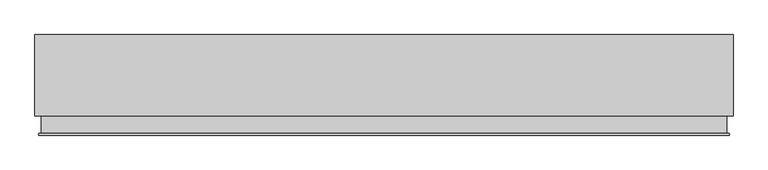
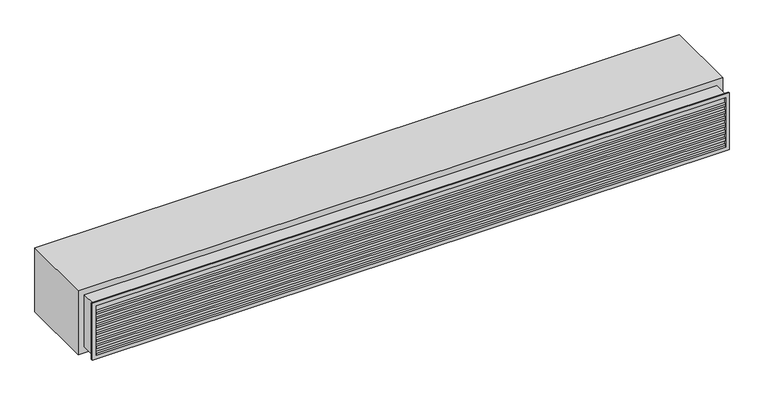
"""IFC4 building model written with IfcOpenShell, lengths in millimetres: air terminal geometry, 020_排気ガラリ : 排気ガラリ."""

import ifcopenshell
import ifcopenshell.guid

model = None  # the IFC model being written
_history = None  # IfcOwnerHistory: only IFC2X3 demands one
_inside = {}  # id of a spatial element -> (the spatial element, [elements in it])
_under = {}  # id of a project, library or spatial element -> (it, [spatial elements below it])
_declared = {}  # id of a project -> (the project, [libraries it declares])
_typed = {}  # id of a type object -> (the type object, [elements of that type])
_made_of = {}  # id of a material, layer set ... -> (it, [elements and type objects made of it])


def new_model(schema):
    """Start an empty IFC model of exactly this schema.

    Asked for "IFC4X3", IfcOpenShell would pick the latest addendum, in which some entities
    have other attributes; the version numbers below select the first issue.
    IFC2X3 requires an IfcOwnerHistory on every rooted entity: one is made here for all.
    """
    global model, _history
    if schema == "IFC4X3":
        model = ifcopenshell.file(schema_version=(4, 3, 0, 0))
    else:
        model = ifcopenshell.file(schema=schema)
    _inside.clear()
    _under.clear()
    _declared.clear()
    _typed.clear()
    _made_of.clear()
    _history = None
    if model.schema == "IFC2X3":
        org = make("IfcOrganization", Name="unknown")
        user = make(
            "IfcPersonAndOrganization",
            ThePerson=make("IfcPerson", FamilyName="unknown"),
            TheOrganization=org,
        )
        app = make(
            "IfcApplication",
            ApplicationDeveloper=org,
            Version="unknown",
            ApplicationFullName="unknown",
            ApplicationIdentifier="unknown",
        )
        _history = make(
            "IfcOwnerHistory",
            OwningUser=user,
            OwningApplication=app,
            ChangeAction="ADDED",
            CreationDate=0,
        )
    return model


def make(cls, **values):
    """One entity of the class cls with the attributes given. An attribute that is None is left unset."""
    return model.create_entity(
        cls, **{name: value for name, value in values.items() if value is not None}
    )


def rooted(cls, **values):
    """An entity with a GlobalId (a new one), such as an element, a storey or a relation."""
    return make(cls, GlobalId=ifcopenshell.guid.new(), OwnerHistory=_history, **values)


def si_unit(unit_type, name, prefix=None):
    """IfcSIUnit, for example si_unit("LENGTHUNIT", "METRE", prefix="MILLI")."""
    return make("IfcSIUnit", UnitType=unit_type, Prefix=prefix, Name=name)


def assignment(units):
    """IfcUnitAssignment: the units of a project."""
    return None if units is None else make("IfcUnitAssignment", Units=units)


def point(xyz):
    """IfcCartesianPoint."""
    return None if xyz is None else make("IfcCartesianPoint", Coordinates=xyz)


def direction(xyz):
    """IfcDirection."""
    return None if xyz is None else make("IfcDirection", DirectionRatios=xyz)


def frame(location, z_axis=None, x_axis=None):
    """IfcAxis2Placement3D, a coordinate frame: its origin and axes. An axis left out is left unset."""
    return make(
        "IfcAxis2Placement3D",
        Location=point(location),
        Axis=direction(z_axis),
        RefDirection=direction(x_axis),
    )


def origin():
    """The frame at (0, 0, 0) with its axes left unset."""
    return frame((0.0, 0.0, 0.0))


def place(relative_to, where):
    """IfcLocalPlacement: puts the frame where relative to a parent placement (None: the world)."""
    return make(
        "IfcLocalPlacement", PlacementRelTo=relative_to, RelativePlacement=where
    )


def context(
    kind, dimensions, precision=None, world=None, true_north=None, identifier=None
):
    """IfcGeometricRepresentationContext, for example the 3D "Model" context."""
    return make(
        "IfcGeometricRepresentationContext",
        ContextIdentifier=identifier,
        ContextType=kind,
        CoordinateSpaceDimension=dimensions,
        Precision=precision,
        WorldCoordinateSystem=world,
        TrueNorth=true_north,
    )


def project(units=None, contexts=None):
    """IfcProject with its units and contexts."""
    return rooted(
        "IfcProject",
        Name="project",
        RepresentationContexts=contexts,
        UnitsInContext=assignment(units),
    )


def spatial(cls, under=None, at=None, **own):
    """A site, building, storey or space (cls), placed at a placement, below another one or the project."""
    s = rooted(cls, ObjectPlacement=at, **own)
    if under is not None:
        _under.setdefault(under.id(), (under, []))[1].append(s)
    return s


def polyline(points):
    """IfcPolyline through the points."""
    return make("IfcPolyline", Points=[point(p) for p in points])


def outline(outer, holes=None, kind="AREA"):
    """IfcArbitraryClosedProfileDef: a profile drawn as a closed curve; with holes, ...WithVoids."""
    if holes is None:
        return make("IfcArbitraryClosedProfileDef", ProfileType=kind, OuterCurve=outer)
    return make(
        "IfcArbitraryProfileDefWithVoids",
        ProfileType=kind,
        OuterCurve=outer,
        InnerCurves=holes,
    )


def extrude(swept, where, along, depth):
    """IfcExtrudedAreaSolid: the profile swept, set in the frame where, extruded along a direction by depth."""
    return make(
        "IfcExtrudedAreaSolid",
        SweptArea=swept,
        Position=where,
        ExtrudedDirection=direction(along),
        Depth=depth,
    )


def faces_of(points, faces, orient=None, outer=None):
    """IfcFace entities. A face is a list of loops; a loop is a list of indices into points, from 0.

    orient and outer hold one flag for each loop. By default every Orientation is true, the
    first loop of a face is its IfcFaceOuterBound and the others are IfcFaceBound.
    """
    made = []
    for i, loops in enumerate(faces):
        bounds = []
        for j, loop in enumerate(loops):
            is_outer = j == 0 if outer is None else outer[i][j]
            bounds.append(
                make(
                    "IfcFaceOuterBound" if is_outer else "IfcFaceBound",
                    Bound=make("IfcPolyLoop", Polygon=[points[k] for k in loop]),
                    Orientation=True if orient is None else orient[i][j],
                )
            )
        made.append(make("IfcFace", Bounds=bounds))
    return made


def faceted_brep(points, faces, orient=None, outer=None, voids=None):
    """IfcFacetedBrep: a solid bounded by flat faces; with voids (closed shells), ...WithVoids."""
    shared = [point(p) for p in points]
    hull = make("IfcClosedShell", CfsFaces=faces_of(shared, faces, orient, outer))
    if voids is None:
        return make("IfcFacetedBrep", Outer=hull)
    return make(
        "IfcFacetedBrepWithVoids",
        Outer=hull,
        Voids=[
            make(cls, CfsFaces=faces_of(shared, fs, o, b)) for cls, fs, o, b in voids
        ],
    )


def shape(context_of_items, identifier, shape_type, items):
    """IfcShapeRepresentation: the items that make up one representation, for example the "Body"."""
    return make(
        "IfcShapeRepresentation",
        ContextOfItems=context_of_items,
        RepresentationIdentifier=identifier,
        RepresentationType=shape_type,
        Items=items,
    )


def source(mapping_origin, context_of_items, identifier, shape_type, items):
    """IfcRepresentationMap: a shape defined once, which mapped items show again and again."""
    return make(
        "IfcRepresentationMap",
        MappingOrigin=mapping_origin,
        MappedRepresentation=shape(context_of_items, identifier, shape_type, items),
    )


def transform(
    local_origin,
    x_axis=None,
    y_axis=None,
    z_axis=None,
    scale=None,
    scale2=None,
    scale3=None,
    uniform=True,
):
    """IfcCartesianTransformationOperator3D, or its non-uniform kind. x_axis, y_axis, z_axis: its Axis1, 2, 3."""
    if uniform:
        return make(
            "IfcCartesianTransformationOperator3D",
            Axis1=direction(x_axis),
            Axis2=direction(y_axis),
            LocalOrigin=point(local_origin),
            Scale=scale,
            Axis3=direction(z_axis),
        )
    return make(
        "IfcCartesianTransformationOperator3DnonUniform",
        Axis1=direction(x_axis),
        Axis2=direction(y_axis),
        LocalOrigin=point(local_origin),
        Scale=scale,
        Axis3=direction(z_axis),
        Scale2=scale2,
        Scale3=scale3,
    )


def mapped(mapping_source, mapping_target):
    """IfcMappedItem: shows the shape of a source again, moved by a transform."""
    return make(
        "IfcMappedItem", MappingSource=mapping_source, MappingTarget=mapping_target
    )


def made_of(thing, what):
    """Note that an element or type object is made of a material, layer set ...; save() writes the relation."""
    if what is not None:
        _made_of.setdefault(what.id(), (what, []))[1].append(thing)
    return thing


def element(
    cls,
    number,
    at=None,
    inside=None,
    cuts=None,
    type_object=None,
    material=None,
    context=None,
    identifier="Body",
    shape_type=None,
    held_by="IfcProductDefinitionShape",
    body=None,
    shapes=None,
    **own,
):
    """One element of the class cls, such as IfcWall. Its Tag is "e" and its number.

    at: its placement. inside: the storey or other place that contains it. cuts: it is an
    opening in that element (IfcRelVoidsElement). A single representation is given by context,
    identifier, shape_type and body (its items); several are given by shapes. held_by: the class
    of the entity that holds the representations. save() writes the other relations.
    """
    e = rooted(cls, Tag="e%d" % number, ObjectPlacement=at, **own)
    if body is not None:
        shapes = [shape(context, identifier, shape_type, body)]
    if shapes is not None:
        e.Representation = make(held_by, Representations=shapes)
    if inside is not None:
        _inside.setdefault(inside.id(), (inside, []))[1].append(e)
    if cuts is not None:
        rooted(
            "IfcRelVoidsElement", RelatingBuildingElement=cuts, RelatedOpeningElement=e
        )
    if type_object is not None:
        _typed.setdefault(type_object.id(), (type_object, []))[1].append(e)
    return made_of(e, material)


def aggregate(whole, parts):
    """IfcRelAggregates: a whole, such as a stair, and the parts it consists of."""
    return rooted("IfcRelAggregates", RelatingObject=whole, RelatedObjects=parts)


def save(model, path):
    """Write the relations noted so far, then the file.

    IfcRelAggregates (storeys below a building ...), IfcRelContainedInSpatialStructure (elements
    in a storey), IfcRelDefinesByType, IfcRelAssociatesMaterial and IfcRelDeclares: one each for
    every whole, place, type object, material and project.
    """
    for whole, parts in _under.values():
        aggregate(whole, parts)
    for where, things in _inside.values():
        rooted(
            "IfcRelContainedInSpatialStructure",
            RelatedElements=things,
            RelatingStructure=where,
        )
    for kind, things in _typed.values():
        rooted("IfcRelDefinesByType", RelatedObjects=things, RelatingType=kind)
    for what, things in _made_of.values():
        rooted("IfcRelAssociatesMaterial", RelatedObjects=things, RelatingMaterial=what)
    for by, libraries in _declared.values():
        rooted("IfcRelDeclares", RelatingContext=by, RelatedDefinitions=libraries)
    model.write(path)


def air_terminal_ce9c14cd(model_context):
    return source(origin(), model_context, "Body", "SolidModel", [
        extrude(outline(polyline([(48.0, 126.6666667), (50.0, 126.6666667), (50.0, 110.4494491), (-8.0, 80.4494491), (-8.0, 66.6666667), (-10.0, 66.6666667), (-10.0, 81.6666667), (48.0, 111.6666667), (48.0, 126.6666667)])), frame((-2100.0, 0.0, 0.0), z_axis=(1.0, 0.0, 0.0), x_axis=(0.0, 1.0, 0.0)), (0.0, 0.0, 1.0), 4200.0),
        extrude(outline(polyline([(48.0, 78.3333333), (50.0, 78.3333333), (50.0, 62.1161157), (-8.0, 32.1161157), (-8.0, 18.3333333), (-10.0, 18.3333333), (-10.0, 33.3333333), (48.0, 63.3333333), (48.0, 78.3333333)])), frame((-2100.0, 0.0, 0.0), z_axis=(1.0, 0.0, 0.0), x_axis=(0.0, 1.0, 0.0)), (0.0, 0.0, 1.0), 4200.0),
        extrude(outline(polyline([(48.0, 30.0), (50.0, 30.0), (50.0, 13.7827824), (-8.0, -16.2172176), (-8.0, -30.0), (-10.0, -30.0), (-10.0, -15.0), (48.0, 15.0), (48.0, 30.0)])), frame((-2100.0, 0.0, 0.0), z_axis=(1.0, 0.0, 0.0), x_axis=(0.0, 1.0, 0.0)), (0.0, 0.0, 1.0), 4200.0),
        extrude(outline(polyline([(48.0, -18.3333333), (50.0, -18.3333333), (50.0, -34.5505509), (-8.0, -64.5505509), (-8.0, -78.3333333), (-10.0, -78.3333333), (-10.0, -63.3333333), (48.0, -33.3333333), (48.0, -18.3333333)])), frame((-2100.0, 0.0, 0.0), z_axis=(1.0, 0.0, 0.0), x_axis=(0.0, 1.0, 0.0)), (0.0, 0.0, 1.0), 4200.0),
        extrude(outline(polyline([(48.0, -66.6666667), (50.0, -66.6666667), (50.0, -82.8838843), (-8.0, -112.8838843), (-8.0, -126.6666667), (-10.0, -126.6666667), (-10.0, -111.6666667), (48.0, -81.6666667), (48.0, -66.6666667)])), frame((-2100.0, 0.0, 0.0), z_axis=(1.0, 0.0, 0.0), x_axis=(0.0, 1.0, 0.0)), (0.0, 0.0, 1.0), 4200.0),
        extrude(outline(polyline([(48.0, 175.0), (50.0, 175.0), (50.0, 158.7827824), (-8.0, 128.7827824), (-8.0, 115.0), (-10.0, 115.0), (-10.0, 130.0), (48.0, 160.0), (48.0, 175.0)])), frame((-2100.0, 0.0, 0.0), z_axis=(1.0, 0.0, 0.0), x_axis=(0.0, 1.0, 0.0)), (0.0, 0.0, 1.0), 4200.0),
        extrude(outline(polyline([(48.0, -115.0), (50.0, -115.0), (50.0, -131.2172176), (-8.0, -161.2172176), (-8.0, -175.0), (-10.0, -175.0), (-10.0, -160.0), (48.0, -130.0), (48.0, -115.0)])), frame((-2100.0, 0.0, 0.0), z_axis=(1.0, 0.0, 0.0), x_axis=(0.0, 1.0, 0.0)), (0.0, 0.0, 1.0), 4200.0),
        faceted_brep([(2100.0, -10.0, 175.0), (2100.0, 110.0, 175.0), (2100.0, 110.0, -175.0), (2100.0, -10.0, -175.0), (2125.0, 0.0, 200.0), (2125.0, -10.0, 200.0), (2125.0, -10.0, -200.0), (2125.0, 0.0, -200.0), (2110.0, 110.0, 185.0), (2110.0, 0.0, 185.0), (2110.0, 0.0, -185.0), (2110.0, 110.0, -185.0), (-2100.0, 110.0, -175.0), (-2100.0, -10.0, -175.0), (-2125.0, -10.0, -200.0), (-2125.0, 0.0, -200.0), (-2110.0, 0.0, -185.0), (-2110.0, 110.0, -185.0), (-2100.0, 110.0, 175.0), (-2100.0, -10.0, 175.0), (-2125.0, -10.0, 200.0), (-2125.0, 0.0, 200.0), (-2110.0, 0.0, 185.0), (-2110.0, 110.0, 185.0)], [[[0, 1, 2, 3]], [[4, 5, 6, 7]], [[8, 9, 10, 11]], [[3, 2, 12, 13]], [[7, 6, 14, 15]], [[11, 10, 16, 17]], [[13, 12, 18, 19]], [[15, 14, 20, 21]], [[17, 16, 22, 23]], [[19, 18, 1, 0]], [[5, 20, 14, 6], [3, 13, 19, 0]], [[21, 20, 5, 4]], [[7, 15, 21, 4], [9, 22, 16, 10]], [[23, 22, 9, 8]], [[11, 17, 23, 8], [1, 18, 12, 2]]]),
        extrude(outline(polyline([(2100.0, 0.0), (-2100.0, 0.0), (-2100.0, 10.0), (2100.0, 10.0), (2100.0, 0.0)])), frame((0.0, 0.0, -175.0), z_axis=(0.0, 0.0, 1.0), x_axis=(1.0, 0.0, 0.0)), (0.0, 0.0, 1.0), 350.0),
        extrude(outline(polyline([(2150.0, 110.0), (-2150.0, 110.0), (-2150.0, 610.0), (2150.0, 610.0), (2150.0, 110.0)])), frame((0.0, 0.0, -225.0), z_axis=(0.0, 0.0, 1.0), x_axis=(1.0, 0.0, 0.0)), (0.0, 0.0, 1.0), 450.0),
    ])


if __name__ == "__main__":
    model = new_model("IFC4")
    model_context = context("Model", 3, world=origin())
    ifc_project = project(units=[si_unit("LENGTHUNIT", "METRE", prefix="MILLI")], contexts=[model_context])
    site = spatial("IfcSite", under=ifc_project)
    building = spatial("IfcBuilding", under=site)
    placement = place(None, origin())
    air_terminal_shape = air_terminal_ce9c14cd(model_context)
    element("IfcAirTerminal", 1, ObjectType="020_排気ガラリ : 排気ガラリ", at=placement, inside=building, context=model_context, shape_type="MappedRepresentation", body=[
        mapped(air_terminal_shape, transform((0.0, 0.0, 0.0), x_axis=(1.0, 0.0, 0.0), y_axis=(0.0, 1.0, 0.0), z_axis=(0.0, 0.0, 1.0))),
    ])
    save(model, "model.ifc")
